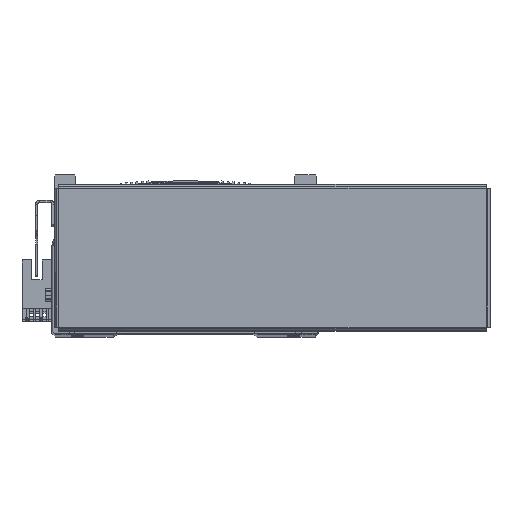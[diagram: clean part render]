
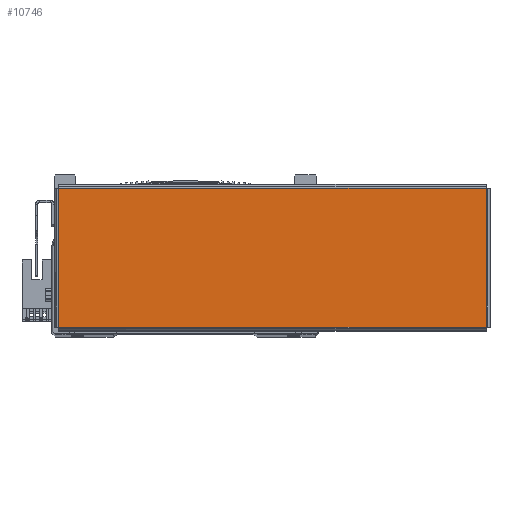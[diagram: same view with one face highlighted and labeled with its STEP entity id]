
A CAD part, top view. The second image highlights one B-rep face of the part: STEP entity #10746.
In plain terms, the highlighted planar face has unit normal (0, 0, 1) as drawn and (0, 0, -1) by its records, which use the part's own axes.
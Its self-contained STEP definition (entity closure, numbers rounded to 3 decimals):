
#1700 = AXIS2_PLACEMENT_3D ( 'NONE', #55081, #55118, #55122 ) ;
#9092 = CARTESIAN_POINT ( 'NONE',  ( 97.863, 31.763, -1. ) ) ;
#9107 = CARTESIAN_POINT ( 'NONE',  ( 97.863, -31.763, -1. ) ) ;
#9109 = CARTESIAN_POINT ( 'NONE',  ( -97.863, 31.763, -1. ) ) ;
#9122 = CARTESIAN_POINT ( 'NONE',  ( -97.863, -31.763, -1. ) ) ;
#10746 = ADVANCED_FACE ( 'NONE', ( #57283 ), #55106, .F. ) ;
#23302 = VERTEX_POINT ( 'NONE', #9122 ) ;
#23319 = VERTEX_POINT ( 'NONE', #9107 ) ;
#23333 = VERTEX_POINT ( 'NONE', #9092 ) ;
#23334 = VERTEX_POINT ( 'NONE', #9109 ) ;
#29604 = DIRECTION ( 'NONE',  ( 0., 1., 0. ) ) ;
#29646 = CARTESIAN_POINT ( 'NONE',  ( -97.863, -31.793, -1. ) ) ;
#29741 = CARTESIAN_POINT ( 'NONE',  ( -97.893, 31.763, -1. ) ) ;
#29770 = DIRECTION ( 'NONE',  ( 1., 0., 0. ) ) ;
#29803 = DIRECTION ( 'NONE',  ( -1., 0., 0. ) ) ;
#29813 = CARTESIAN_POINT ( 'NONE',  ( 97.893, -31.763, -1. ) ) ;
#29922 = CARTESIAN_POINT ( 'NONE',  ( 97.863, 31.793, -1. ) ) ;
#29925 = DIRECTION ( 'NONE',  ( 0., -1., 0. ) ) ;
#39528 = ORIENTED_EDGE ( 'NONE', *, *, #65229, .T. ) ;
#39544 = ORIENTED_EDGE ( 'NONE', *, *, #65364, .T. ) ;
#39554 = ORIENTED_EDGE ( 'NONE', *, *, #65392, .T. ) ;
#40665 = VECTOR ( 'NONE', #29604, 1000. ) ;
#40671 = LINE ( 'NONE', #29646, #40665 ) ;
#40767 = VECTOR ( 'NONE', #29770, 1000. ) ;
#40771 = VECTOR ( 'NONE', #29803, 1000. ) ;
#40788 = LINE ( 'NONE', #29741, #40767 ) ;
#40798 = LINE ( 'NONE', #29813, #40771 ) ;
#40838 = LINE ( 'NONE', #29922, #40861 ) ;
#40861 = VECTOR ( 'NONE', #29925, 1000. ) ;
#55081 = CARTESIAN_POINT ( 'NONE',  ( 0., 0., -1. ) ) ;
#55106 = PLANE ( 'NONE',  #1700 ) ;
#55118 = DIRECTION ( 'NONE',  ( 0., 0., 1. ) ) ;
#55122 = DIRECTION ( 'NONE',  ( 1., 0., 0. ) ) ;
#57283 = FACE_OUTER_BOUND ( 'NONE', #69397, .T. ) ;
#59339 = ORIENTED_EDGE ( 'NONE', *, *, #65497, .T. ) ;
#65229 = EDGE_CURVE ( 'NONE', #23302, #23334, #40671, .T. ) ;
#65364 = EDGE_CURVE ( 'NONE', #23334, #23333, #40788, .T. ) ;
#65392 = EDGE_CURVE ( 'NONE', #23319, #23302, #40798, .T. ) ;
#65497 = EDGE_CURVE ( 'NONE', #23333, #23319, #40838, .T. ) ;
#69397 = EDGE_LOOP ( 'NONE', ( #59339, #39554, #39528, #39544 ) ) ;
